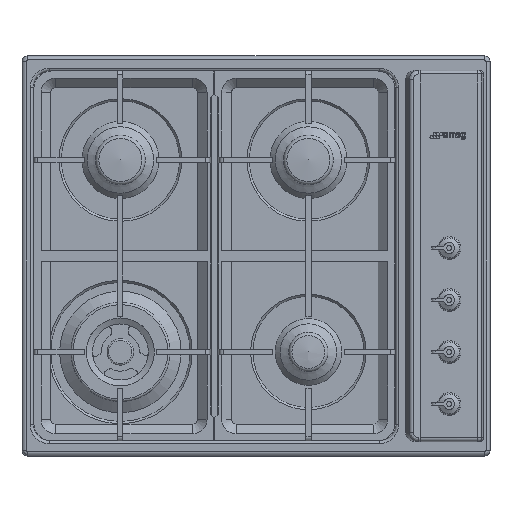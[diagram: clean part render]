
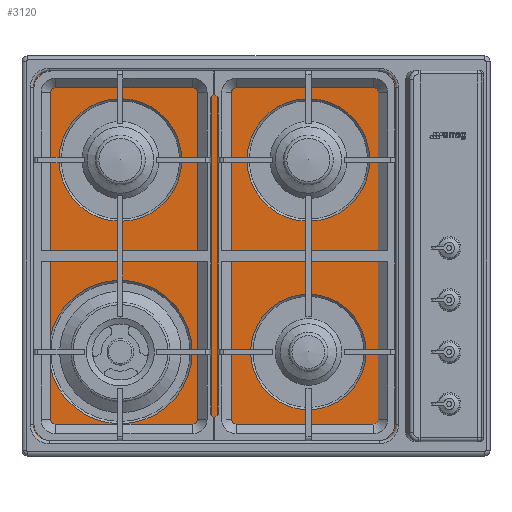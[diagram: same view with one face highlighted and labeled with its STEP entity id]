
A CAD part, top view. The second image highlights one B-rep face of the part: STEP entity #3120.
In plain terms, the highlighted planar face has unit normal (0, 0, 1).
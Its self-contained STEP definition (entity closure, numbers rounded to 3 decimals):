
#205=LINE('',#16458,#1231);
#209=LINE('',#16470,#1235);
#213=LINE('',#16482,#1239);
#217=LINE('',#16494,#1243);
#1231=VECTOR('',#13106,1.);
#1235=VECTOR('',#13118,1.);
#1239=VECTOR('',#13130,1.);
#1243=VECTOR('',#13142,1.);
#2771=FACE_BOUND('',#4770,.T.);
#2772=FACE_BOUND('',#4771,.T.);
#2773=FACE_BOUND('',#4772,.T.);
#2774=FACE_BOUND('',#4773,.T.);
#2775=FACE_BOUND('',#4774,.T.);
#3120=ADVANCED_FACE('',(#2771,#2772,#2773,#2774,#2775),#3790,.T.);
#3790=PLANE('',#11815);
#4770=EDGE_LOOP('',(#5752));
#4771=EDGE_LOOP('',(#5753));
#4772=EDGE_LOOP('',(#5754));
#4773=EDGE_LOOP('',(#5755));
#4774=EDGE_LOOP('',(#5756,#5757,#5758,#5759,#5760,#5761,#5762,#5763));
#5752=ORIENTED_EDGE('',*,*,#9824,.T.);
#5753=ORIENTED_EDGE('',*,*,#9825,.T.);
#5754=ORIENTED_EDGE('',*,*,#9826,.T.);
#5755=ORIENTED_EDGE('',*,*,#9827,.T.);
#5756=ORIENTED_EDGE('',*,*,#9803,.T.);
#5757=ORIENTED_EDGE('',*,*,#9806,.F.);
#5758=ORIENTED_EDGE('',*,*,#9809,.T.);
#5759=ORIENTED_EDGE('',*,*,#9812,.F.);
#5760=ORIENTED_EDGE('',*,*,#9815,.T.);
#5761=ORIENTED_EDGE('',*,*,#9818,.F.);
#5762=ORIENTED_EDGE('',*,*,#9821,.T.);
#5763=ORIENTED_EDGE('',*,*,#9823,.F.);
#8724=VERTEX_POINT('',#16453);
#8726=VERTEX_POINT('',#16457);
#8728=VERTEX_POINT('',#16463);
#8730=VERTEX_POINT('',#16469);
#8732=VERTEX_POINT('',#16475);
#8734=VERTEX_POINT('',#16481);
#8736=VERTEX_POINT('',#16487);
#8738=VERTEX_POINT('',#16493);
#8739=VERTEX_POINT('',#16500);
#8740=VERTEX_POINT('',#16502);
#8741=VERTEX_POINT('',#16504);
#8742=VERTEX_POINT('',#16506);
#9803=EDGE_CURVE('',#8724,#8726,#205,.T.);
#9806=EDGE_CURVE('',#8728,#8726,#11274,.T.);
#9809=EDGE_CURVE('',#8728,#8730,#209,.T.);
#9812=EDGE_CURVE('',#8732,#8730,#11276,.T.);
#9815=EDGE_CURVE('',#8732,#8734,#213,.T.);
#9818=EDGE_CURVE('',#8736,#8734,#11278,.T.);
#9821=EDGE_CURVE('',#8736,#8738,#217,.T.);
#9823=EDGE_CURVE('',#8724,#8738,#11280,.T.);
#9824=EDGE_CURVE('',#8739,#8739,#11281,.T.);
#9825=EDGE_CURVE('',#8740,#8740,#11282,.T.);
#9826=EDGE_CURVE('',#8741,#8741,#11283,.T.);
#9827=EDGE_CURVE('',#8742,#8742,#11284,.T.);
#11274=CIRCLE('',#11797,20.);
#11276=CIRCLE('',#11801,20.);
#11278=CIRCLE('',#11805,20.);
#11280=CIRCLE('',#11809,20.);
#11281=CIRCLE('',#11811,76.7);
#11282=CIRCLE('',#11812,72.2);
#11283=CIRCLE('',#11813,89.7);
#11284=CIRCLE('',#11814,76.7);
#11797=AXIS2_PLACEMENT_3D('',#16464,#13112,#13113);
#11801=AXIS2_PLACEMENT_3D('',#16476,#13124,#13125);
#11805=AXIS2_PLACEMENT_3D('',#16488,#13136,#13137);
#11809=AXIS2_PLACEMENT_3D('',#16497,#13147,#13148);
#11811=AXIS2_PLACEMENT_3D('',#16499,#13151,#13152);
#11812=AXIS2_PLACEMENT_3D('',#16501,#13153,#13154);
#11813=AXIS2_PLACEMENT_3D('',#16503,#13155,#13156);
#11814=AXIS2_PLACEMENT_3D('',#16505,#13157,#13158);
#11815=AXIS2_PLACEMENT_3D('',#16507,#13159,#13160);
#13106=DIRECTION('',(0.,1.,0.));
#13112=DIRECTION('',(0.,0.,-1.));
#13113=DIRECTION('',(-1.,0.,0.));
#13118=DIRECTION('',(-1.,0.,0.));
#13124=DIRECTION('',(0.,0.,-1.));
#13125=DIRECTION('',(-1.,0.,0.));
#13130=DIRECTION('',(0.,-1.,0.));
#13136=DIRECTION('',(0.,0.,-1.));
#13137=DIRECTION('',(-1.,0.,0.));
#13142=DIRECTION('',(1.,0.,0.));
#13147=DIRECTION('',(0.,0.,-1.));
#13148=DIRECTION('',(-1.,0.,0.));
#13151=DIRECTION('',(0.,0.,-1.));
#13152=DIRECTION('',(-1.,0.,0.));
#13153=DIRECTION('',(0.,0.,-1.));
#13154=DIRECTION('',(-1.,0.,0.));
#13155=DIRECTION('',(0.,0.,-1.));
#13156=DIRECTION('',(-1.,0.,0.));
#13157=DIRECTION('',(0.,0.,-1.));
#13158=DIRECTION('',(-1.,0.,0.));
#13159=DIRECTION('',(0.,0.,1.));
#13160=DIRECTION('',(-1.,0.,0.));
#16453=CARTESIAN_POINT('',(421.5,78.5,3.5));
#16457=CARTESIAN_POINT('',(421.5,500.5,3.5));
#16458=CARTESIAN_POINT('',(421.5,78.5,3.5));
#16463=CARTESIAN_POINT('',(401.5,520.5,3.5));
#16464=CARTESIAN_POINT('',(401.5,500.5,3.5));
#16469=CARTESIAN_POINT('',(-11.5,520.5,3.5));
#16470=CARTESIAN_POINT('',(401.5,520.5,3.5));
#16475=CARTESIAN_POINT('',(-31.5,500.5,3.5));
#16476=CARTESIAN_POINT('',(-11.5,500.5,3.5));
#16481=CARTESIAN_POINT('',(-31.5,78.5,3.5));
#16482=CARTESIAN_POINT('',(-31.5,500.5,3.5));
#16487=CARTESIAN_POINT('',(-11.5,58.5,3.5));
#16488=CARTESIAN_POINT('',(-11.5,78.5,3.5));
#16493=CARTESIAN_POINT('',(401.5,58.5,3.5));
#16494=CARTESIAN_POINT('',(-11.5,58.5,3.5));
#16497=CARTESIAN_POINT('',(401.5,78.5,3.5));
#16499=CARTESIAN_POINT('',(312.5,409.5,3.5));
#16500=CARTESIAN_POINT('',(235.8,409.5,3.5));
#16501=CARTESIAN_POINT('',(312.5,169.5,3.5));
#16502=CARTESIAN_POINT('',(240.3,169.5,3.5));
#16503=CARTESIAN_POINT('',(77.5,169.5,3.5));
#16504=CARTESIAN_POINT('',(-12.2,169.5,3.5));
#16505=CARTESIAN_POINT('',(77.5,409.5,3.5));
#16506=CARTESIAN_POINT('',(0.8,409.5,3.5));
#16507=CARTESIAN_POINT('',(401.5,500.5,3.5));
